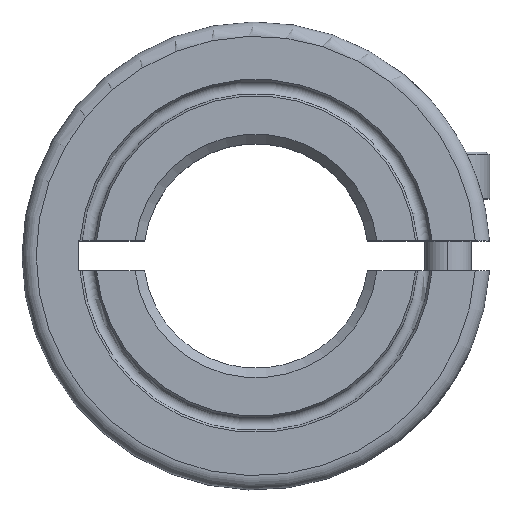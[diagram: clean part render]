
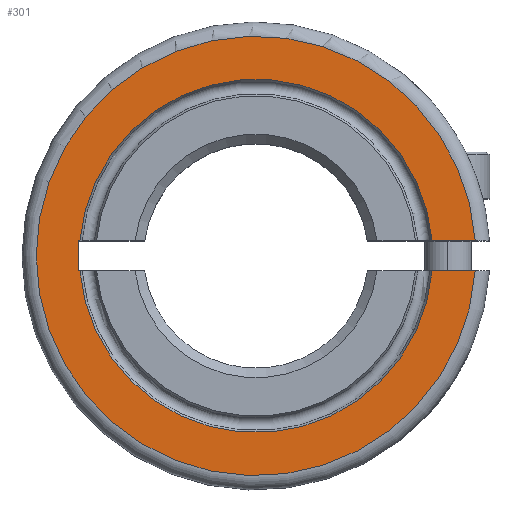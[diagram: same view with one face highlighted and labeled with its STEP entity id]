
A CAD part, top view. The second image highlights one B-rep face of the part: STEP entity #301.
In plain terms, the highlighted planar face has unit normal (0, 0, 1).
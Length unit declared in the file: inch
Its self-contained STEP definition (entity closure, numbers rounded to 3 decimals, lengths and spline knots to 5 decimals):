
#35 = VECTOR ( 'NONE', #1027, 39.37008 ) ;
#43 = ORIENTED_EDGE ( 'NONE', *, *, #1359, .F. ) ;
#75 = EDGE_CURVE ( 'NONE', #1466, #1493, #1608, .T. ) ;
#103 = CARTESIAN_POINT ( 'NONE',  ( 0., 0., 0.11811 ) ) ;
#116 = DIRECTION ( 'NONE',  ( 0., 0., 1. ) ) ;
#118 = DIRECTION ( 'NONE',  ( 1., 0., 0. ) ) ;
#128 = CARTESIAN_POINT ( 'NONE',  ( 0.46105, 0.0315, 0.11811 ) ) ;
#130 = DIRECTION ( 'NONE',  ( 1., 0., 0. ) ) ;
#135 = ORIENTED_EDGE ( 'NONE', *, *, #564, .F. ) ;
#207 = VECTOR ( 'NONE', #1298, 39.37008 ) ;
#229 = VERTEX_POINT ( 'NONE', #128 ) ;
#262 = AXIS2_PLACEMENT_3D ( 'NONE', #1031, #116, #1184 ) ;
#301 = ADVANCED_FACE ( 'NONE', ( #723 ), #1232, .T. ) ;
#324 = DIRECTION ( 'NONE',  ( 0., 0., 1. ) ) ;
#336 = AXIS2_PLACEMENT_3D ( 'NONE', #783, #324, #770 ) ;
#364 = AXIS2_PLACEMENT_3D ( 'NONE', #103, #1172, #118 ) ;
#415 = CARTESIAN_POINT ( 'NONE',  ( 0.49213, 0.0315, 0.11811 ) ) ;
#447 = CARTESIAN_POINT ( 'NONE',  ( -0.37402, 0.0315, 0.11811 ) ) ;
#452 = EDGE_LOOP ( 'NONE', ( #1774, #1100, #43, #976, #1776, #1144, #135, #949 ) ) ;
#455 = CARTESIAN_POINT ( 'NONE',  ( -0.37031, 0.0315, 0.11811 ) ) ;
#564 = EDGE_CURVE ( 'NONE', #1493, #941, #1037, .T. ) ;
#600 = DIRECTION ( 'NONE',  ( 0., -1., 0. ) ) ;
#626 = CARTESIAN_POINT ( 'NONE',  ( 0.46105, -0.0315, 0.11811 ) ) ;
#697 = CARTESIAN_POINT ( 'NONE',  ( 0., 0., 0.11811 ) ) ;
#723 = FACE_OUTER_BOUND ( 'NONE', #452, .T. ) ;
#745 = LINE ( 'NONE', #1825, #888 ) ;
#770 = DIRECTION ( 'NONE',  ( 1., 0., 0. ) ) ;
#783 = CARTESIAN_POINT ( 'NONE',  ( 0., 0., 0.11811 ) ) ;
#789 = LINE ( 'NONE', #1186, #912 ) ;
#852 = DIRECTION ( 'NONE',  ( 1., 0., 0. ) ) ;
#888 = VECTOR ( 'NONE', #1832, 39.37008 ) ;
#912 = VECTOR ( 'NONE', #130, 39.37008 ) ;
#937 = EDGE_CURVE ( 'NONE', #941, #1151, #1848, .T. ) ;
#941 = VERTEX_POINT ( 'NONE', #1638 ) ;
#949 = ORIENTED_EDGE ( 'NONE', *, *, #75, .F. ) ;
#969 = EDGE_CURVE ( 'NONE', #1151, #1001, #745, .T. ) ;
#976 = ORIENTED_EDGE ( 'NONE', *, *, #1791, .F. ) ;
#1001 = VERTEX_POINT ( 'NONE', #1234 ) ;
#1027 = DIRECTION ( 'NONE',  ( -1., 0., 0. ) ) ;
#1031 = CARTESIAN_POINT ( 'NONE',  ( 0., 0., 0.11811 ) ) ;
#1037 = LINE ( 'NONE', #1580, #207 ) ;
#1100 = ORIENTED_EDGE ( 'NONE', *, *, #1910, .T. ) ;
#1112 = VECTOR ( 'NONE', #600, 39.37008 ) ;
#1144 = ORIENTED_EDGE ( 'NONE', *, *, #937, .F. ) ;
#1151 = VERTEX_POINT ( 'NONE', #1885 ) ;
#1155 = CIRCLE ( 'NONE', #262, 0.46213 ) ;
#1172 = DIRECTION ( 'NONE',  ( 0., 0., 1. ) ) ;
#1184 = DIRECTION ( 'NONE',  ( 1., 0., 0. ) ) ;
#1186 = CARTESIAN_POINT ( 'NONE',  ( 0.49213, -0.0315, 0.11811 ) ) ;
#1232 = PLANE ( 'NONE',  #336 ) ;
#1234 = CARTESIAN_POINT ( 'NONE',  ( -0.37031, -0.0315, 0.11811 ) ) ;
#1298 = DIRECTION ( 'NONE',  ( -1., 0., 0. ) ) ;
#1359 = EDGE_CURVE ( 'NONE', #1854, #1453, #789, .T. ) ;
#1453 = VERTEX_POINT ( 'NONE', #626 ) ;
#1466 = VERTEX_POINT ( 'NONE', #1647 ) ;
#1493 = VERTEX_POINT ( 'NONE', #455 ) ;
#1566 = CARTESIAN_POINT ( 'NONE',  ( 0.37031, -0.0315, 0.11811 ) ) ;
#1579 = CIRCLE ( 'NONE', #1661, 0.37165 ) ;
#1580 = CARTESIAN_POINT ( 'NONE',  ( 0.49213, 0.0315, 0.11811 ) ) ;
#1608 = CIRCLE ( 'NONE', #364, 0.37165 ) ;
#1638 = CARTESIAN_POINT ( 'NONE',  ( -0.37402, 0.0315, 0.11811 ) ) ;
#1647 = CARTESIAN_POINT ( 'NONE',  ( 0.37031, 0.0315, 0.11811 ) ) ;
#1661 = AXIS2_PLACEMENT_3D ( 'NONE', #697, #1736, #852 ) ;
#1736 = DIRECTION ( 'NONE',  ( 0., 0., 1. ) ) ;
#1774 = ORIENTED_EDGE ( 'NONE', *, *, #1804, .F. ) ;
#1776 = ORIENTED_EDGE ( 'NONE', *, *, #969, .F. ) ;
#1791 = EDGE_CURVE ( 'NONE', #1001, #1854, #1579, .T. ) ;
#1804 = EDGE_CURVE ( 'NONE', #229, #1466, #1888, .T. ) ;
#1825 = CARTESIAN_POINT ( 'NONE',  ( 0.49213, -0.0315, 0.11811 ) ) ;
#1832 = DIRECTION ( 'NONE',  ( 1., 0., 0. ) ) ;
#1848 = LINE ( 'NONE', #447, #1112 ) ;
#1854 = VERTEX_POINT ( 'NONE', #1566 ) ;
#1885 = CARTESIAN_POINT ( 'NONE',  ( -0.37402, -0.0315, 0.11811 ) ) ;
#1888 = LINE ( 'NONE', #415, #35 ) ;
#1910 = EDGE_CURVE ( 'NONE', #229, #1453, #1155, .T. ) ;
